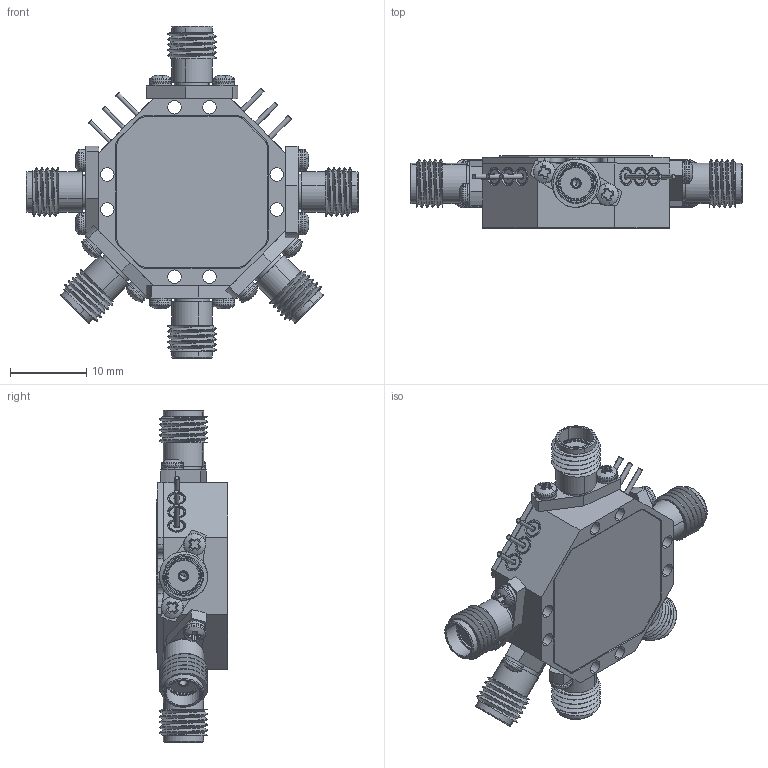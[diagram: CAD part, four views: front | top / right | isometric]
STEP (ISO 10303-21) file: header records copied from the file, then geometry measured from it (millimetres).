
FILE_DESCRIPTION (( 'STEP AP214' ), '1' );
FILE_NAME ('P5T-218-60-R-25DBM-SFF.STEP', '2023-11-09T14:14:15', ( '' ), ( '' ), 'SwSTEP 2.0', 'SolidWorks 2023', '' );
FILE_SCHEMA (( 'AUTOMOTIVE_DESIGN' ));
Length unit declared in the file: inch
Products named in the file (1): P5T-218-60-R-25DBM-SFF
Bounding box: 43.59 x 9.45 x 43.59 mm (x, y, z)
Volume: 4241.2 mm3; surface area: 8446.6 mm2
Topology: 43 solids, 43 shells, 1989 faces, 5932 edges, 4279 vertices
Faces by surface type: plane 755, cylinder 750, torus 300, cone 148, sphere 24, bspline 12
Entity records: 103893 total; most frequent: CARTESIAN_POINT 23572, ORIENTED_EDGE 11780, DIRECTION 10885, EDGE_CURVE 5890, VERTEX_POINT 4279, AXIS2_PLACEMENT_3D 4174, LINE 2537, VECTOR 2537
